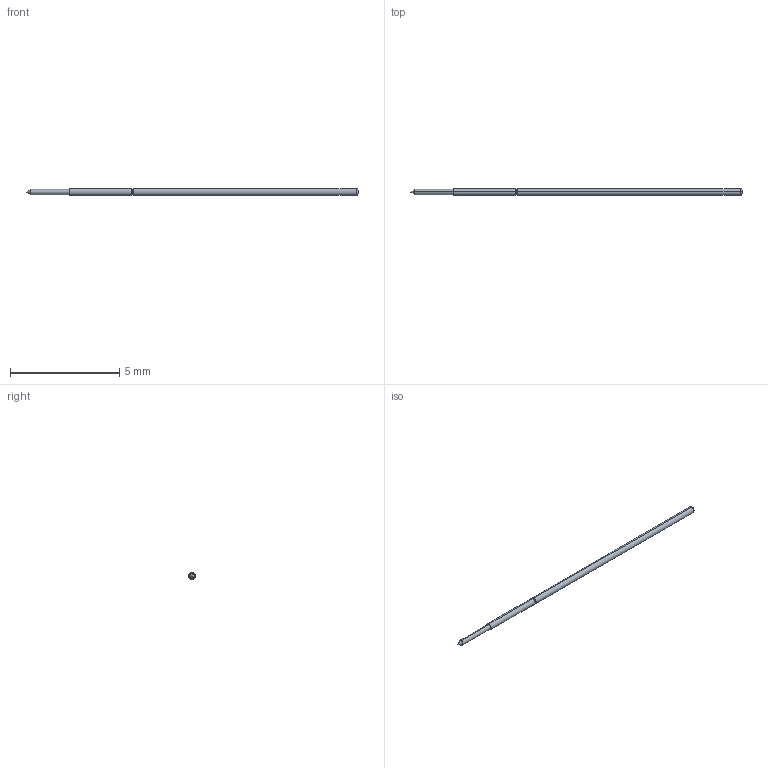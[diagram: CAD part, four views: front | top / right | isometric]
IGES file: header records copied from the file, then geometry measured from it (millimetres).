
Start section: SolidWorks IGES file using analytic representation for surfaces
Global section: file name: Z:\probe solid model mockups\Solidworks models\RMP-22B IGS files\RMP-22B.IGS; native system: SolidWorks 2006 by SolidWorks Corporation; preprocessor: SolidWorks 2006 by SolidWorks Corporation; author: tsakatani; date: 071219.101914; units: inch
Bounding box: 15.19 x 0.3 x 0.3 mm (x, y, z)
Surface area: 14.1 mm2 (no closed solid volume)
Topology: 0 solids, 0 shells, 16 faces, 104 edges, 102 vertices
Faces by surface type: bspline 8, revolution 8
